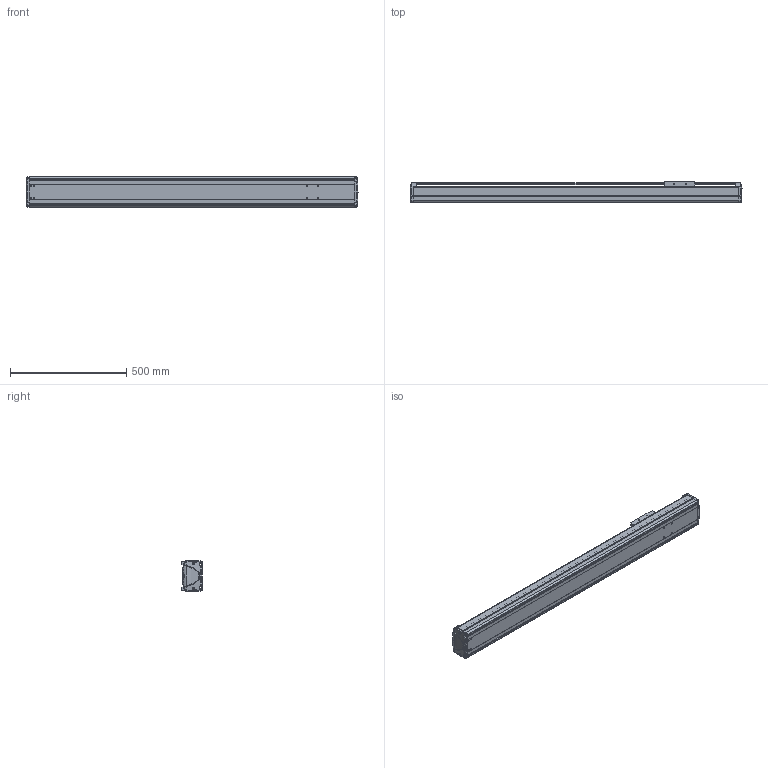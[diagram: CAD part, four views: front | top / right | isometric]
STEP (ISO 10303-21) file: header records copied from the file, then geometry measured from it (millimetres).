
FILE_DESCRIPTION((''),'2;1');
FILE_NAME('BE30E-ST-M_B-A5_IGS_PRT','2017-06-17T',(' '),(''),'PRO/ENGINEER BY PARAMETRIC TECHNOLOGY CORPORATION, 2015030','PRO/ENGINEER BY PARAMETRIC TECHNOLOGY CORPORATION, 2015030','');
FILE_SCHEMA(('CONFIG_CONTROL_DESIGN'));
Length unit declared in the file: millimetre
Products named in the file (1): BE30E-ST-M_B-A5_IGS_PRT
Bounding box: 1425 x 89.8 x 130 mm (x, y, z)
Volume: 4304541.3 mm3; surface area: 1685671.1 mm2
Topology: 3 solids, 94 shells, 1394 faces, 3756 edges, 2457 vertices
Faces by surface type: cylinder 647, plane 596, bspline 55, torus 42, cone 30, sphere 24
Entity records: 46869 total; most frequent: CARTESIAN_POINT 11729, DIRECTION 7253, ORIENTED_EDGE 7110, EDGE_CURVE 3736, AXIS2_PLACEMENT_3D 2636, VERTEX_POINT 2457, VECTOR 1981, LINE 1981
